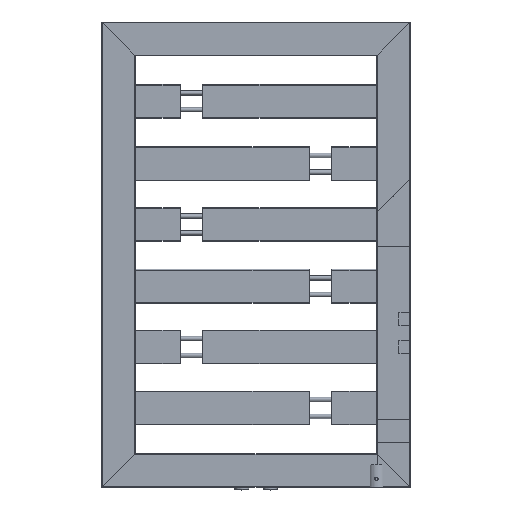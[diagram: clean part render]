
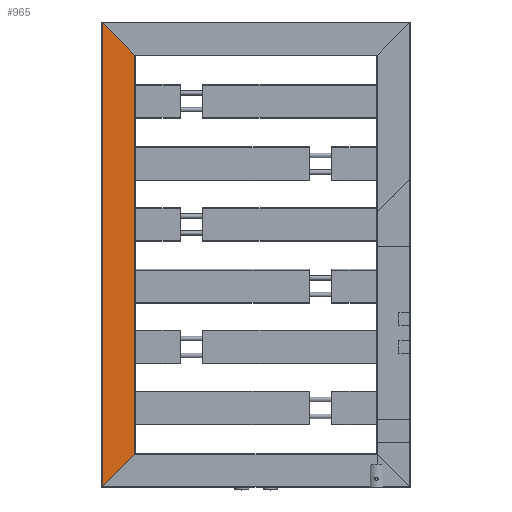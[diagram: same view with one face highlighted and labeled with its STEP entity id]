
A CAD part, top view. The second image highlights one B-rep face of the part: STEP entity #965.
In plain terms, the highlighted planar face has unit normal (0, 0, 1) as drawn and (0, 0, -1) by its records, which use the part's own axes.
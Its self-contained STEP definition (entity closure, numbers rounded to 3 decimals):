
#965 = ADVANCED_FACE( '', ( #1973 ), #1974, .T. );
#1973 = FACE_OUTER_BOUND( '', #3194, .T. );
#1974 = PLANE( '', #3195 );
#3194 = EDGE_LOOP( '', ( #5553, #5554, #5555, #5556 ) );
#3195 = AXIS2_PLACEMENT_3D( '', #5557, #5558, #5559 );
#5553 = ORIENTED_EDGE( '', *, *, #6924, .F. );
#5554 = ORIENTED_EDGE( '', *, *, #6329, .T. );
#5555 = ORIENTED_EDGE( '', *, *, #6324, .T. );
#5556 = ORIENTED_EDGE( '', *, *, #6268, .F. );
#5557 = CARTESIAN_POINT( '', ( 1., 1160., 0. ) );
#5558 = DIRECTION( '', ( 0., 0., -1. ) );
#5559 = DIRECTION( '', ( -1., 0., 0. ) );
#6268 = EDGE_CURVE( '', #7369, #7371, #7372, .T. );
#6324 = EDGE_CURVE( '', #7467, #7371, #7468, .T. );
#6329 = EDGE_CURVE( '', #7475, #7467, #7476, .T. );
#6924 = EDGE_CURVE( '', #7475, #7369, #8381, .T. );
#7369 = VERTEX_POINT( '', #9084 );
#7371 = VERTEX_POINT( '', #9086 );
#7372 = LINE( '', #9087, #9088 );
#7467 = VERTEX_POINT( '', #9318 );
#7468 = LINE( '', #9319, #9320 );
#7475 = VERTEX_POINT( '', #9329 );
#7476 = LINE( '', #9330, #9331 );
#8381 = LINE( '', #10876, #10877 );
#9084 = CARTESIAN_POINT( '', ( 1., 59., 0. ) );
#9086 = CARTESIAN_POINT( '', ( 59., 1., 0. ) );
#9087 = CARTESIAN_POINT( '', ( -549.5, 609.5, 0. ) );
#9088 = VECTOR( '', #11521, 1000. );
#9318 = CARTESIAN_POINT( '', ( 59., 829., 0. ) );
#9319 = CARTESIAN_POINT( '', ( 59., 1160., 0. ) );
#9320 = VECTOR( '', #11581, 1000. );
#9329 = CARTESIAN_POINT( '', ( 1., 771., 0. ) );
#9330 = CARTESIAN_POINT( '', ( 195.5, 965.5, 0. ) );
#9331 = VECTOR( '', #11587, 1000. );
#10876 = CARTESIAN_POINT( '', ( 1., 1160., 0. ) );
#10877 = VECTOR( '', #12296, 1000. );
#11521 = DIRECTION( '', ( 0.707, -0.707, 0. ) );
#11581 = DIRECTION( '', ( 0., -1., 0. ) );
#11587 = DIRECTION( '', ( 0.707, 0.707, 0. ) );
#12296 = DIRECTION( '', ( 0., -1., 0. ) );
